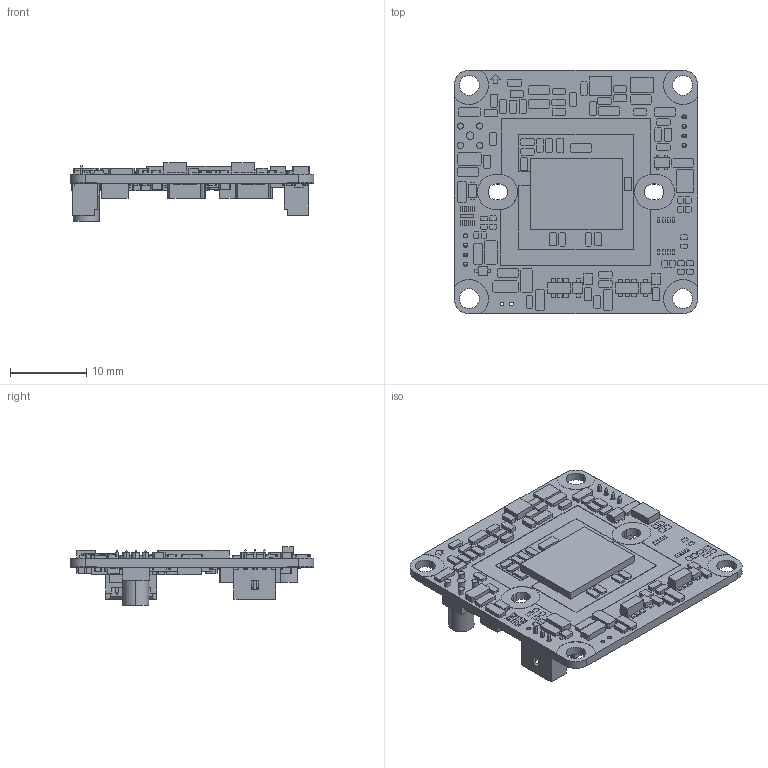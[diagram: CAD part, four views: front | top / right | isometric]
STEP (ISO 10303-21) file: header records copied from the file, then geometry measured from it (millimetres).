
FILE_DESCRIPTION(('FreeCAD Model'),'2;1');
FILE_NAME('Open CASCADE Shape Model','2025-01-24T15:47:41',(''),(''), 'Open CASCADE STEP processor 7.6','FreeCAD','Unknown');
FILE_SCHEMA(('AUTOMOTIVE_DESIGN { 1 0 10303 214 1 1 1 1 }'));
Length unit declared in the file: millimetre
Products named in the file (5): 201-ESHSAHCV-662-xyzq_revA; 201; HD_CON; 53; 53001
Assembly tree (4 placements, depth 2):
  201-ESHSAHCV-662-xyzq_revA
    201
    HD_CON
    53
    53001
Bounding box: 32 x 32 x 7.7 mm (x, y, z)
Volume: 1836.9 mm3; surface area: 3494.8 mm2
Topology: 4 solids, 4 shells, 2273 faces, 6038 edges, 4003 vertices
Faces by surface type: plane 2191, cylinder 82
Entity records: 69302 total; most frequent: CARTESIAN_POINT 12327, ORIENTED_EDGE 12076, DIRECTION 10756, EDGE_CURVE 6038, LINE 5872, VECTOR 5872, VERTEX_POINT 4003, FACE_BOUND 2543
